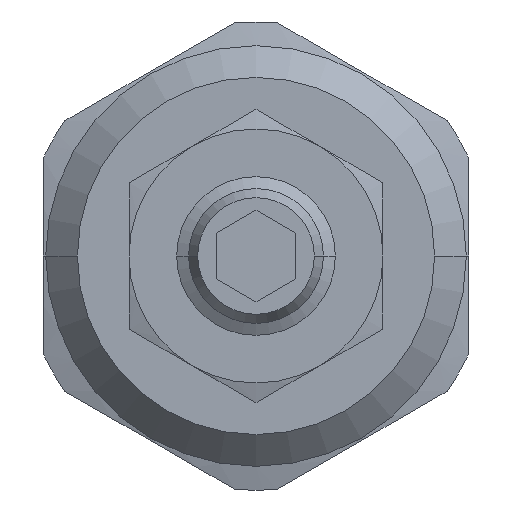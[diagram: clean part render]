
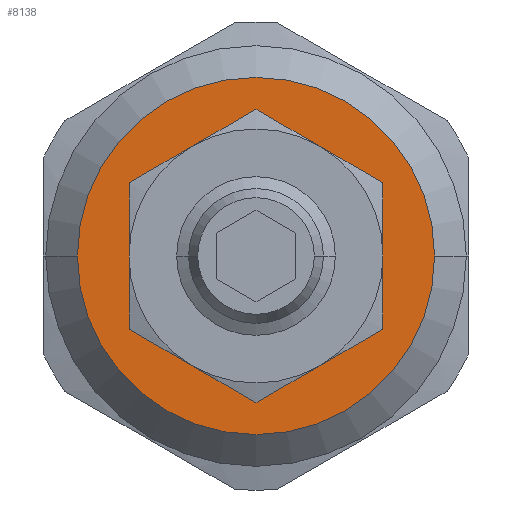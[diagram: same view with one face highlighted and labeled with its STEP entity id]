
A CAD part, left-side view. The second image highlights one B-rep face of the part: STEP entity #8138.
In plain terms, the highlighted planar face has unit normal (-1, 0, 0).
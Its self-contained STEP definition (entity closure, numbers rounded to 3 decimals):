
#4676=CARTESIAN_POINT('',(-53.,0.,0.));
#4677=DIRECTION('',(-1.,0.,0.));
#4678=DIRECTION('',(0.,1.,0.));
#4679=AXIS2_PLACEMENT_3D('',#4676,#4677,#4678);
#4681=CARTESIAN_POINT('',(-53.,0.,0.));
#4682=DIRECTION('',(1.,0.,0.));
#4683=DIRECTION('',(0.,1.,0.));
#4684=AXIS2_PLACEMENT_3D('',#4681,#4682,#4683);
#4686=CARTESIAN_POINT('',(-53.,8.,0.));
#4700=CARTESIAN_POINT('',(-53.,0.,0.));
#4701=DIRECTION('',(1.,0.,0.));
#4702=DIRECTION('',(0.,1.,0.));
#4703=AXIS2_PLACEMENT_3D('',#4700,#4701,#4702);
#4717=CARTESIAN_POINT('',(-53.,4.,6.928));
#4733=CARTESIAN_POINT('',(-53.,0.,0.));
#4734=DIRECTION('',(1.,0.,0.));
#4735=DIRECTION('',(0.,0.5,0.866));
#4736=AXIS2_PLACEMENT_3D('',#4733,#4734,#4735);
#4750=CARTESIAN_POINT('',(-53.,-4.,6.928));
#4766=CARTESIAN_POINT('',(-53.,0.,0.));
#4767=DIRECTION('',(1.,0.,0.));
#4768=DIRECTION('',(0.,-0.5,0.866));
#4769=AXIS2_PLACEMENT_3D('',#4766,#4767,#4768);
#4783=CARTESIAN_POINT('',(-53.,-8.,0.));
#4829=CARTESIAN_POINT('',(-53.,0.,0.));
#4830=DIRECTION('',(-1.,0.,0.));
#4831=DIRECTION('',(0.,1.,0.));
#4832=AXIS2_PLACEMENT_3D('',#4829,#4830,#4831);
#4848=CARTESIAN_POINT('',(-53.,0.,0.));
#4849=DIRECTION('',(-1.,0.,0.));
#4850=DIRECTION('',(0.,-0.5,-0.866));
#4851=AXIS2_PLACEMENT_3D('',#4848,#4849,#4850);
#4865=CARTESIAN_POINT('',(-53.,-4.,-6.928));
#4881=CARTESIAN_POINT('',(-53.,0.,0.));
#4882=DIRECTION('',(-1.,0.,0.));
#4883=DIRECTION('',(0.,0.5,-0.866));
#4884=AXIS2_PLACEMENT_3D('',#4881,#4882,#4883);
#4898=CARTESIAN_POINT('',(-53.,4.,-6.928));
#5691=CARTESIAN_POINT('',(-53.,11.25,0.));
#5693=VERTEX_POINT('',#5691);
#5695=CARTESIAN_POINT('',(-53.,-11.25,0.));
#5697=VERTEX_POINT('',#5695);
#5702=VERTEX_POINT('',#4686);
#5704=VERTEX_POINT('',#4717);
#5706=VERTEX_POINT('',#4750);
#5708=VERTEX_POINT('',#4783);
#5718=VERTEX_POINT('',#4865);
#5720=VERTEX_POINT('',#4898);
#8115=CARTESIAN_POINT('',(-53.,0.,0.));
#8116=DIRECTION('',(1.,0.,0.));
#8117=DIRECTION('',(0.,-1.,0.));
#8118=AXIS2_PLACEMENT_3D('',#8115,#8116,#8117);
#8119=PLANE('',#8118);
#8120=ORIENTED_EDGE('',*,*,#8108,.F.);
#8121=ORIENTED_EDGE('',*,*,#8097,.T.);
#8122=EDGE_LOOP('',(#8120,#8121));
#8123=FACE_OUTER_BOUND('',#8122,.F.);
#8125=ORIENTED_EDGE('',*,*,#8124,.F.);
#8127=ORIENTED_EDGE('',*,*,#8126,.T.);
#8129=ORIENTED_EDGE('',*,*,#8128,.T.);
#8131=ORIENTED_EDGE('',*,*,#8130,.T.);
#8133=ORIENTED_EDGE('',*,*,#8132,.F.);
#8135=ORIENTED_EDGE('',*,*,#8134,.F.);
#8136=EDGE_LOOP('',(#8125,#8127,#8129,#8131,#8133,#8135));
#8137=FACE_BOUND('',#8136,.F.);
#4680=CIRCLE('',#4679,11.25);
#4685=CIRCLE('',#4684,11.25);
#4704=CIRCLE('',#4703,8.);
#4737=CIRCLE('',#4736,8.);
#4770=CIRCLE('',#4769,8.);
#4833=CIRCLE('',#4832,8.);
#4852=CIRCLE('',#4851,8.);
#4885=CIRCLE('',#4884,8.);
#8097=EDGE_CURVE('',#5693,#5697,#4685,.T.);
#8108=EDGE_CURVE('',#5693,#5697,#4680,.T.);
#8124=EDGE_CURVE('',#5702,#5704,#4704,.T.);
#8126=EDGE_CURVE('',#5702,#5720,#4833,.T.);
#8128=EDGE_CURVE('',#5720,#5718,#4885,.T.);
#8130=EDGE_CURVE('',#5718,#5708,#4852,.T.);
#8132=EDGE_CURVE('',#5706,#5708,#4770,.T.);
#8134=EDGE_CURVE('',#5704,#5706,#4737,.T.);
#8138=ADVANCED_FACE('',(#8123,#8137),#8119,.F.);
